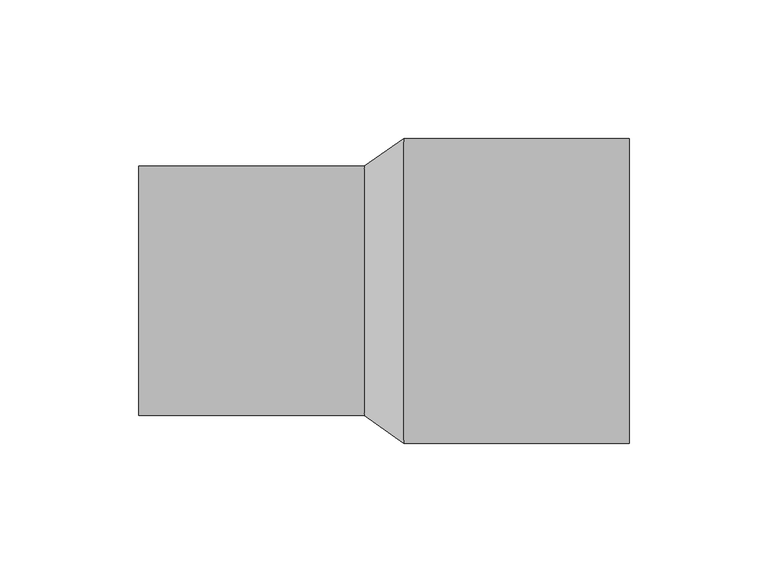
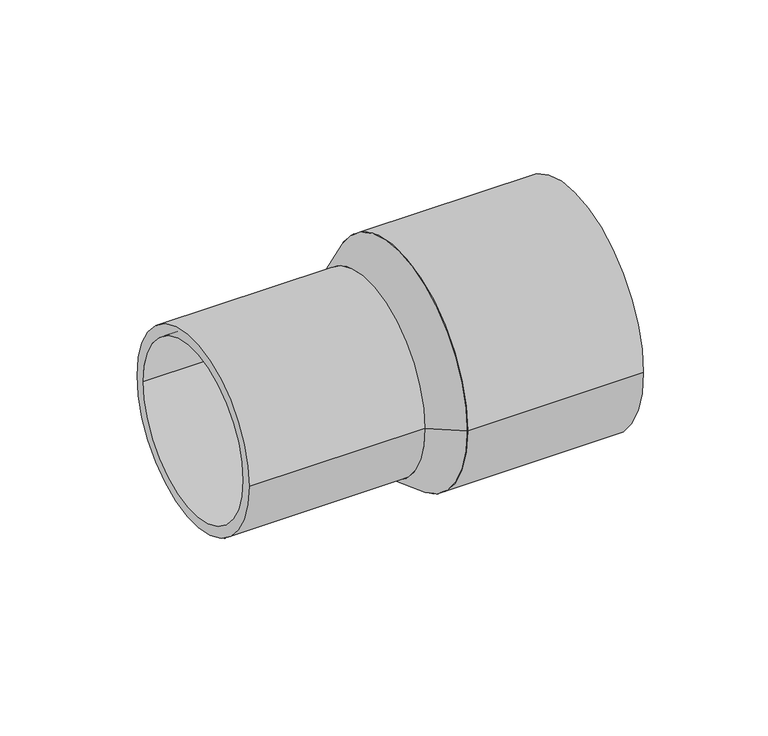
"""IFC4 building model written with IfcOpenShell, lengths in millimetres: pipe fitting geometry, EGB_VASEN_ PPR_Manguito reductor a tope WXRB110 : Manguito reductor a tope WXRB110."""

from ifc_helpers import new_model, si_unit, point, frame, origin, origin_2d, place, context, project, spatial, polyline, circle_curve, trimmed, segment, composite_curve, outline, extrude, source, transform, mapped, element, save
from ifc_brep_helpers import plane_surface, revolved_surface, advanced_brep


def pipe_fitting_e32ac456(model_context):
    return source(origin(), model_context, "Body", "SolidModel", [
        extrude(outline(composite_curve([segment(trimmed(circle_curve(origin_2d(), 55.0), [point((-55.0, 0.0))], [point((55.0, 0.0))], False, "CARTESIAN"), True, "CONTINUOUS"), segment(trimmed(circle_curve(origin_2d(), 55.0), [point((55.0, 0.0))], [point((-55.0, 0.0))], False, "CARTESIAN"), True, "CONTINUOUS")], self_intersect=False), holes=[composite_curve([segment(trimmed(circle_curve(origin_2d(), 50.0), [point((-50.0, 0.0))], [point((50.0, 0.0))], True, "CARTESIAN"), True, "CONTINUOUS"), segment(trimmed(circle_curve(origin_2d(), 50.0), [point((50.0, 0.0))], [point((-50.0, 0.0))], True, "CARTESIAN"), True, "CONTINUOUS")], self_intersect=False)]), frame((7.08, 0.0, 0.0), z_axis=(1.0, 0.0, 0.0), x_axis=(0.0, 1.0, 0.0)), (0.0, 0.0, 1.0), 81.42),
        extrude(outline(composite_curve([segment(trimmed(circle_curve(origin_2d(), 45.0), [point((-45.0, 0.0))], [point((45.0, 0.0))], False, "CARTESIAN"), True, "CONTINUOUS"), segment(trimmed(circle_curve(origin_2d(), 45.0), [point((45.0, 0.0))], [point((-45.0, 0.0))], False, "CARTESIAN"), True, "CONTINUOUS")], self_intersect=False), holes=[composite_curve([segment(trimmed(circle_curve(origin_2d(), 40.0), [point((-40.0, 0.0))], [point((40.0, 0.0))], True, "CARTESIAN"), True, "CONTINUOUS"), segment(trimmed(circle_curve(origin_2d(), 40.0), [point((40.0, 0.0))], [point((-40.0, 0.0))], True, "CARTESIAN"), True, "CONTINUOUS")], self_intersect=False)]), frame((-88.5, 0.0, 0.0), z_axis=(1.0, 0.0, 0.0), x_axis=(0.0, 1.0, 0.0)), (0.0, 0.0, 1.0), 81.42),
        advanced_brep(
        [(7.08, -55.0, 0.0), (7.08, 55.0, 0.0), (-7.08, -45.0, 0.0), (-7.08, 45.0, 0.0)],
        [
            (0, 1, circle_curve(frame((7.08, 0.0, 0.0), z_axis=(1.0, 0.0, 0.0), x_axis=(0.0, -1.0, 0.0)), 55.0)),
            (1, 0, circle_curve(frame((7.08, 0.0, 0.0), z_axis=(1.0, 0.0, 0.0), x_axis=(0.0, 1.0, 0.0)), 55.0)),
            (2, 3, circle_curve(frame((-7.08, 0.0, 0.0), z_axis=(-1.0, 0.0, 0.0), x_axis=(0.0, 1.0, 0.0)), 45.0)),
            (3, 2, circle_curve(frame((-7.08, 0.0, 0.0), z_axis=(-1.0, 0.0, 0.0), x_axis=(0.0, -1.0, 0.0)), 45.0)),
            (3, 1),
            (0, 2),
        ],
        [
            plane_surface(frame((7.08, 0.0, 0.0), z_axis=(1.0, 0.0, 0.0), x_axis=(0.0, 0.0, -1.0))),
            plane_surface(frame((-7.08, 0.0, 0.0), z_axis=(-1.0, 0.0, 0.0), x_axis=(0.0, 0.0, -1.0))),
            revolved_surface(polyline([(-7.079999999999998, 45.0, 0.0), (7.079999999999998, 55.0, 0.0)]), (-70.8, 0.0, 0.0), (1.0, 0.0, 0.0)),
            revolved_surface(polyline([(-7.079999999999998, -45.0, 0.0), (7.079999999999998, -55.0, 0.0)]), (-70.8, 0.0, 0.0), (1.0, 0.0, 0.0)),
        ],
        [
            (0, [[1, 2]]),
            (1, [[3, 4]]),
            (2, [[-4, 5, -1, 6]]),
            (3, [[-3, -6, -2, -5]]),
        ],
    ),
    ])


if __name__ == "__main__":
    model = new_model("IFC4")
    model_context = context("Model", 3, world=origin())
    ifc_project = project(units=[si_unit("LENGTHUNIT", "METRE", prefix="MILLI")], contexts=[model_context])
    site = spatial("IfcSite", under=ifc_project)
    building = spatial("IfcBuilding", under=site)
    placement = place(None, origin())
    pipe_fitting_shape = pipe_fitting_e32ac456(model_context)
    element("IfcPipeFitting", 1, ObjectType="EGB_VASEN_ PPR_Manguito reductor a tope WXRB110 : Manguito reductor a tope WXRB110", at=placement, inside=building, context=model_context, shape_type="MappedRepresentation", body=[
        mapped(pipe_fitting_shape, transform((0.0, 0.0, 0.0), x_axis=(1.0, 0.0, 0.0), y_axis=(0.0, 1.0, 0.0), z_axis=(0.0, 0.0, 1.0))),
    ])
    save(model, "model.ifc")
